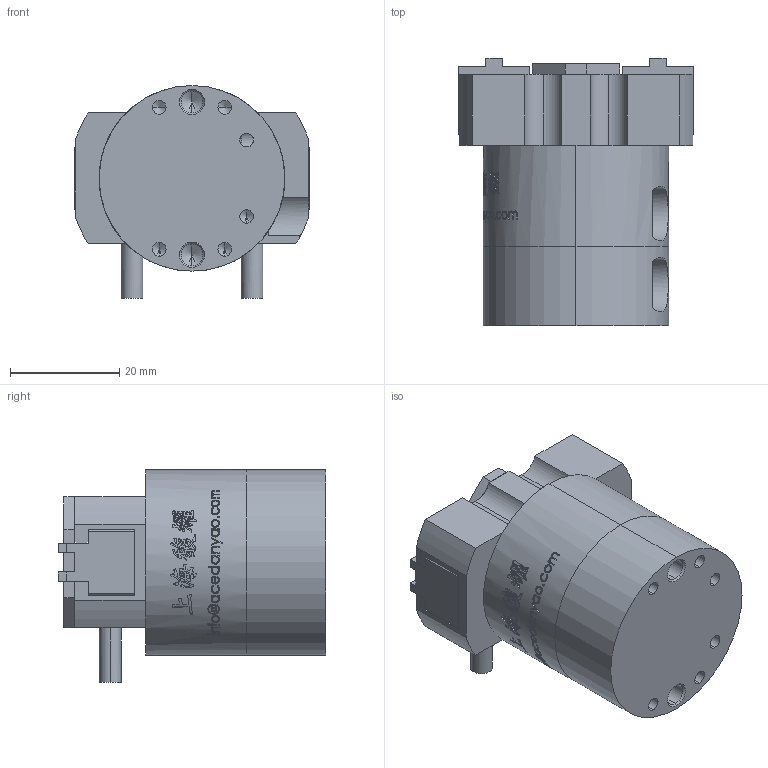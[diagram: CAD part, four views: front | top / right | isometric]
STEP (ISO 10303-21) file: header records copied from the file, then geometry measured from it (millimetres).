
FILE_DESCRIPTION (( 'STEP AP203' ), '1' );
FILE_NAME ('OPM-030-C1-MC&MA-原始檔-組合-W106.04.18.STEP', '2017-04-18T03:10:26', ( 'DanyaoCAD' ), ( '' ), 'SwSTEP 2.0', 'SolidWorks 2016', '' );
FILE_SCHEMA (( 'CONFIG_CONTROL_DESIGN' ));
Length unit declared in the file: millimetre
Products named in the file (4): Griffa; Fondello; Corpo; OPM-030-C1-MC&MA-原始檔-組合-W106.04.18
Assembly tree (4 placements, depth 2):
  OPM-030-C1-MC&MA-原始檔-組合-W106.04.18
    Griffa  x2
    Fondello
    Corpo
Bounding box: 43 x 49 x 39 mm (x, y, z)
Volume: 41031 mm3; surface area: 15798.1 mm2
Topology: 4 solids, 4 shells, 1019 faces, 2855 edges, 1871 vertices
Faces by surface type: bspline 665, plane 195, cylinder 117, cone 42
Entity records: 74949 total; most frequent: CARTESIAN_POINT 55256, ORIENTED_EDGE 5436, EDGE_CURVE 2718, B_SPLINE_CURVE_WITH_KNOTS 2043, VERTEX_POINT 1803, DIRECTION 1537, EDGE_LOOP 1053, FACE_OUTER_BOUND 980
